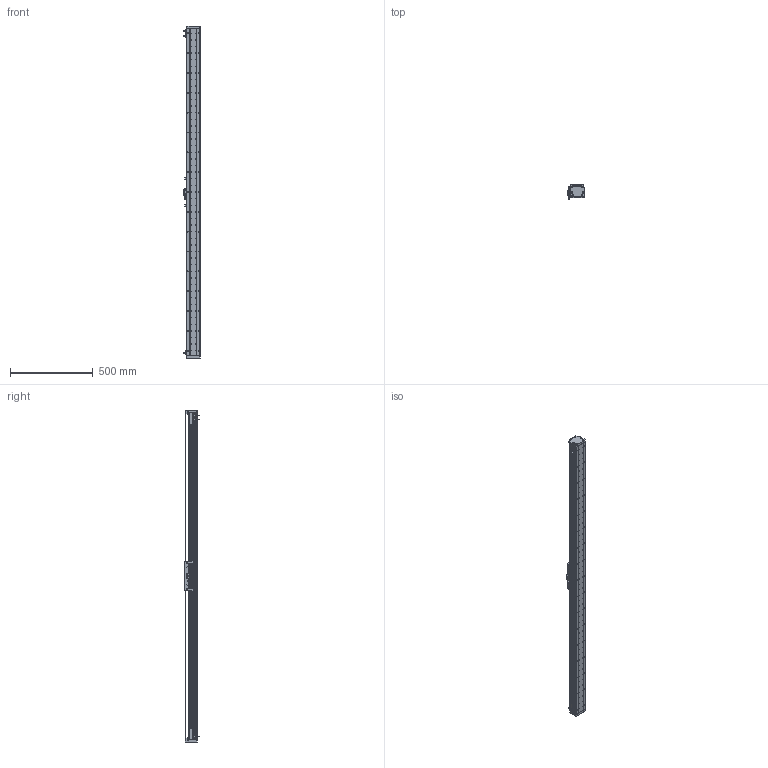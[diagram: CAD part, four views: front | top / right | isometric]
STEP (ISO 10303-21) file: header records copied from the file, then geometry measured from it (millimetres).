
FILE_DESCRIPTION (( 'STEP AP203' ), '1' );
FILE_NAME ('DA-A82-B2-T1760-C010-0.2 眻盄萇儂.STEP', '2025-08-13T03:12:16', ( '' ), ( '' ), 'SwSTEP 2.0', 'SolidWorks 2019', '' );
FILE_SCHEMA (( 'CONFIG_CONTROL_DESIGN' ));
Length unit declared in the file: millimetre
Products named in the file (23): 葩璃 DA60-DMT-DTJ-00 黍杅芛盓殤^DA-A82-B2-T-C010-0.2; 葩璃 鞠褒情蹟譫 M3^DA-A82-B2-T-C010-0.2; 复件 DA95-B2-GT-00 滑块钢轨^AU82-M-00 一体化滑动台板; 葩璃 PM-T45^DA-A82-B2-T-C010-0.2; 复件 复件 17517-0000-004-00  钢带压块^DA-A82-B2-T-C010-0.2(默认); AU82-HT-M-00 賑雄怢啣; IU-AU82-L 菁釱絳寢; AU82-M-00 珨极趙賑雄怢啣; 葩璃 葩璃 17517-0000-002-00 傷啣^DA-A82-B2-T-C010-0.2; 复件 DA95-GT-T-00 底座钢轨^IU-AU82-L 底座导轨; DA-A82-B2-T1760-C010-0.2 眻盄萇儂; 葩璃 DMT-010 1米m 0.2M^DA-A82-B2-T-C010-0.2; 葩璃 DA82-B2-DP-00 結え^AU82-M 幗紩賑怢; AU82-M 幗紩賑怢; IU-AU82-L-00 菁釱(L1980); 复件 复件 17517-0000-003-00 钢带拉块^DA-A82-B2-T-C010-0.2; 复件 纯铜油杯 6x6mm^AU82-M 滚珠滑台; 复件 复件 复件 DA82 钢带盖板^DA-A82-B2-T-C010-0.2(默认); ｸｴｼ BKM02-W040-C1-TP-DA-3.0 ﾖｱﾏﾟｵ扈巐ｯﾗﾓ^DA-A82-B2-T-C010-0.2; 葩璃 BKM01-W040-TRL^DA-A82-B2-T-C010-0.2; 复件 复件 DA82-XJ-00 缓冲橡胶^DA-A82-B2-T-C010-0.2; 葩璃 XD-U-02  棠掑喜^DA-A82-B2-T-C010-0.2; DA-A60-GYP-DMT-00 光电感应片^DA-A82-B2-T-C010-0.2(默认)
Assembly tree (40 placements, depth 4):
  DA-A82-B2-T1760-C010-0.2 眻盄萇儂
    IU-AU82-L 菁釱絳寢
      IU-AU82-L-00 菁釱(L1980)
      复件 DA95-GT-T-00 底座钢轨^IU-AU82-L 底座导轨  x2
    AU82-M 幗紩賑怢
      AU82-M-00 珨极趙賑雄怢啣
        AU82-HT-M-00 賑雄怢啣
        复件 DA95-B2-GT-00 滑块钢轨^AU82-M-00 一体化滑动台板  x4
      葩璃 DA82-B2-DP-00 結え^AU82-M 幗紩賑怢  x2
      复件 纯铜油杯 6x6mm^AU82-M 滚珠滑台  x2
    葩璃 DA60-DMT-DTJ-00 黍杅芛盓殤^DA-A82-B2-T-C010-0.2
    葩璃 DMT-010 1米m 0.2M^DA-A82-B2-T-C010-0.2
    DA-A60-GYP-DMT-00 光电感应片^DA-A82-B2-T-C010-0.2(默认)  x2
    ｸｴｼ BKM02-W040-C1-TP-DA-3.0 ﾖｱﾏﾟｵ扈巐ｯﾗﾓ^DA-A82-B2-T-C010-0.2
    复件 复件 17517-0000-003-00 钢带拉块^DA-A82-B2-T-C010-0.2  x2
    复件 复件 DA82-XJ-00 缓冲橡胶^DA-A82-B2-T-C010-0.2  x2
    复件 复件 17517-0000-004-00  钢带压块^DA-A82-B2-T-C010-0.2(默认)  x2
    葩璃 葩璃 17517-0000-002-00 傷啣^DA-A82-B2-T-C010-0.2  x2
    复件 复件 复件 DA82 钢带盖板^DA-A82-B2-T-C010-0.2(默认)
    葩璃 BKM01-W040-TRL^DA-A82-B2-T-C010-0.2
    葩璃 PM-T45^DA-A82-B2-T-C010-0.2  x3
    葩璃 XD-U-02  棠掑喜^DA-A82-B2-T-C010-0.2
    葩璃 鞠褒情蹟譫 M3^DA-A82-B2-T-C010-0.2  x6
Bounding box: 98.95 x 87.2 x 2008 mm (x, y, z)
Volume: 5675469.7 mm3; surface area: 1726477.5 mm2
Topology: 44 solids, 68 shells, 2563 faces, 6872 edges, 4354 vertices
Faces by surface type: cylinder 1313, plane 960, cone 272, bspline 8, torus 8, sphere 2
Entity records: 73413 total; most frequent: CARTESIAN_POINT 17103, DIRECTION 11431, ORIENTED_EDGE 10848, EDGE_CURVE 5424, AXIS2_PLACEMENT_3D 4417, VERTEX_POINT 3538, EDGE_LOOP 2762, VECTOR 2597
